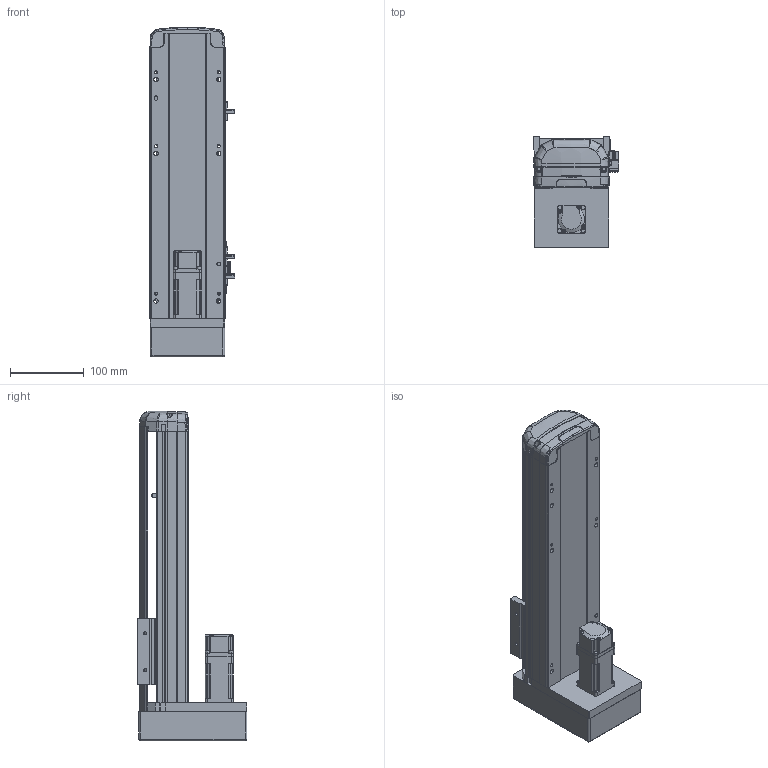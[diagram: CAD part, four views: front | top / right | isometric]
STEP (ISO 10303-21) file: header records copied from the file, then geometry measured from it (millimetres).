
FILE_DESCRIPTION (( 'STEP AP214' ), '1' );
FILE_NAME ('RTH10-XX-200-M-M10-C4.STEP', '2025-10-25T05:43:11', ( 'Microsoft' ), ( 'Microsoft' ), 'SwSTEP 2.0', 'SolidWorks 2018', '' );
FILE_SCHEMA (( 'AUTOMOTIVE_DESIGN' ));
Length unit declared in the file: millimetre
Products named in the file (10): N_RTH12-GY-004-賑釱^RTH10-XX-100-M-M10-C4; N_P10^RTH10-XX-100-M-M10-C4; N_RTH12-GY-001P^RTH10-XX-100-M-M10-C4; N_RTH12-M-008-萇儂啣^RTH10-XX-100-M-M10-C4; N_RTH12-M-011P-臏倰第菁釱^RTH10-XX-100-M-M10-C4; N_OMRON EE-SX672 传感器^RTH10-XX-100-M-M10-C4; N_RTH12-M-007P-奻裔^RTH10-XX-100-M-M10-C4; RTH10-XX-200-M-M10-C4; N_RTH13-L-012覜茼え俋离^RTH10-XX-100-M-M10-C4; N_RTH12-M-018-裔赽^RTH10-XX-100-M-M10-C4
Assembly tree (11 placements, depth 2):
  RTH10-XX-200-M-M10-C4
    N_RTH12-M-011P-臏倰第菁釱^RTH10-XX-100-M-M10-C4
    N_RTH13-L-012覜茼え俋离^RTH10-XX-100-M-M10-C4
    N_OMRON EE-SX672 传感器^RTH10-XX-100-M-M10-C4  x3
    N_P10^RTH10-XX-100-M-M10-C4
    N_RTH12-M-007P-奻裔^RTH10-XX-100-M-M10-C4
    N_RTH12-M-008-萇儂啣^RTH10-XX-100-M-M10-C4
    N_RTH12-M-018-裔赽^RTH10-XX-100-M-M10-C4
    N_RTH12-GY-004-賑釱^RTH10-XX-100-M-M10-C4
    N_RTH12-GY-001P^RTH10-XX-100-M-M10-C4
Bounding box: 116.5 x 149 x 447.31 mm (x, y, z)
Volume: 2475328.9 mm3; surface area: 384511.9 mm2
Topology: 10 solids, 12 shells, 1893 faces, 5263 edges, 3451 vertices
Faces by surface type: plane 947, bspline 472, cylinder 439, cone 29, sphere 4, torus 2
Entity records: 56543 total; most frequent: CARTESIAN_POINT 22727, ORIENTED_EDGE 7598, DIRECTION 5781, EDGE_CURVE 3805, VERTEX_POINT 2495, VECTOR 2019, LINE 2019, AXIS2_PLACEMENT_3D 1881
